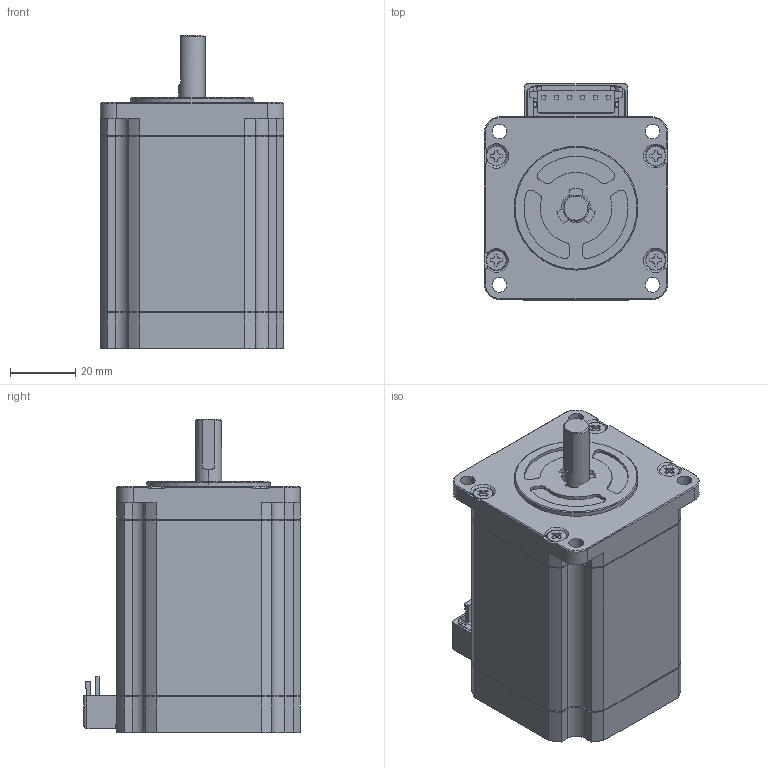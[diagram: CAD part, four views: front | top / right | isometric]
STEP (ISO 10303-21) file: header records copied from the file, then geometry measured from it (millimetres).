
FILE_DESCRIPTION (( 'STEP AP203' ), '1' );
FILE_NAME ('SM2563C10U41.STEP', '2021-05-07T07:37:07', ( '' ), ( '' ), 'SwSTEP 2.0', 'SolidWorks 2019', '' );
FILE_SCHEMA (( 'CONFIG_CONTROL_DESIGN' ));
Length unit declared in the file: millimetre
Products named in the file (10): Copy of INSULATOR_REAR^01124251_コネクタタイプ（10.1L）; Copy of FRONT COVER^01124251; Copy of OUTPUT SHAFT^01124251; Copy of SUBSTRATE^Copy of TERMINAL_01124251; Copy of REAR COVER^01124251; Copy of STATOR^01124251; Copy of CONNECTOR^Copy of TERMINAL_01124251; Copy of TERMINAL^01124251; SM2563C10U41; Copy of SCREW^01124251
Assembly tree (12 placements, depth 3):
  SM2563C10U41
    Copy of FRONT COVER^01124251
    Copy of STATOR^01124251
    Copy of INSULATOR_REAR^01124251_コネクタタイプ（10.1L）
    Copy of TERMINAL^01124251
      Copy of SUBSTRATE^Copy of TERMINAL_01124251
      Copy of CONNECTOR^Copy of TERMINAL_01124251
    Copy of REAR COVER^01124251
    Copy of OUTPUT SHAFT^01124251
    Copy of SCREW^01124251  x4
Bounding box: 56.4 x 66.6 x 96.4 mm (x, y, z)
Volume: 236738.2 mm3; surface area: 45001.7 mm2
Topology: 11 solids, 11 shells, 622 faces, 1619 edges, 1045 vertices
Faces by surface type: plane 402, cylinder 159, cone 61
Entity records: 18074 total; most frequent: CARTESIAN_POINT 3089, ORIENTED_EDGE 2890, DIRECTION 2874, EDGE_CURVE 1445, VECTOR 1058, LINE 1058, VERTEX_POINT 931, AXIS2_PLACEMENT_3D 908
